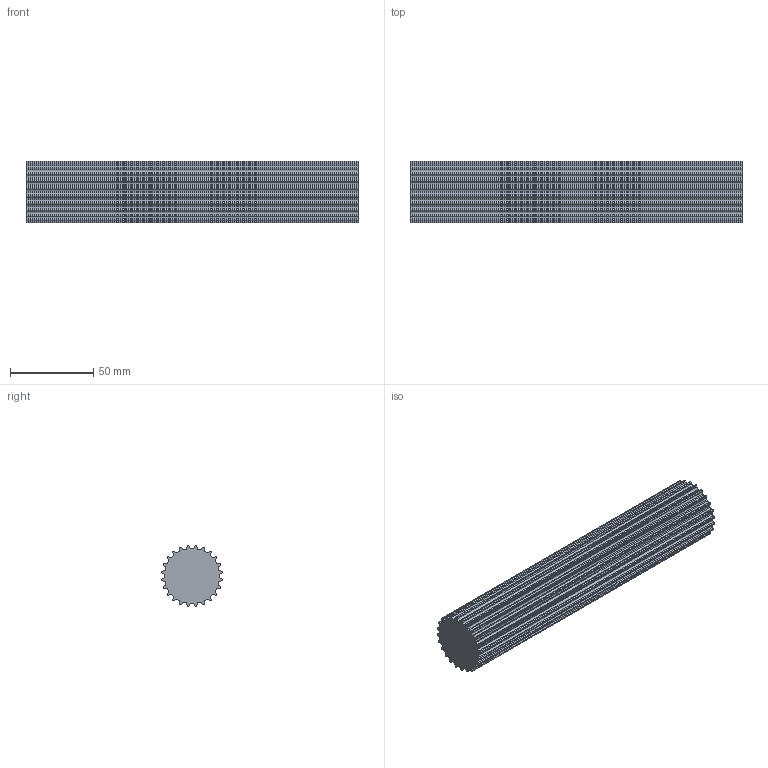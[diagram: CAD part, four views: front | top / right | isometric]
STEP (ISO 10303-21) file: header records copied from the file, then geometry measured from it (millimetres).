
FILE_DESCRIPTION( ( 'STEP AP214' ), '1' );
FILE_NAME( 'C:/Users/StangenbergN/Documents/CAD_Step/1/17292400.stp', '2019-08-23T07:23:26', ( '' ), ( '' ), ' ', 'PARTsolutions', ' ' );
FILE_SCHEMA( ( 'AUTOMOTIVE_DESIGN { 1 0 10303 214 1 1 1 1 }' ) );
Length unit declared in the file: millimetre
Products named in the file (1): _17292400
Bounding box: 200 x 36.77 x 36.77 mm (x, y, z)
Volume: 186904.3 mm3; surface area: 34560.5 mm2
Topology: 1 solids, 1 shells, 194 faces, 576 edges, 384 vertices
Faces by surface type: cylinder 120, plane 74
Entity records: 8168 total; most frequent: DIRECTION 1206, CARTESIAN_POINT 1155, ORIENTED_EDGE 1152, EDGE_CURVE 576, AXIS2_PLACEMENT_3D 435, VERTEX_POINT 384, LINE 336, VECTOR 336
